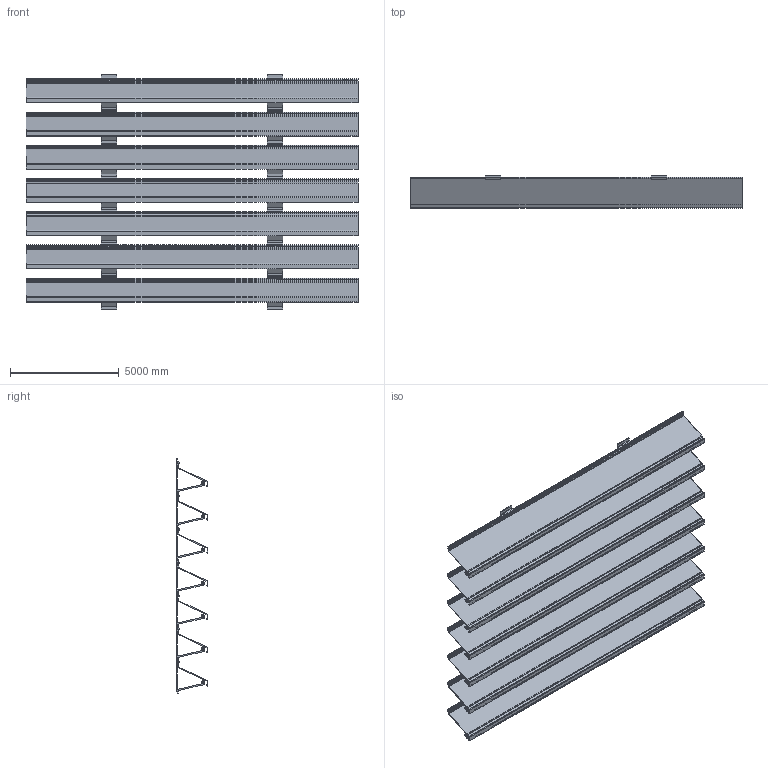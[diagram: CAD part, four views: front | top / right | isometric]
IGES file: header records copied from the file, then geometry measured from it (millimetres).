
Global section: file name: 3D_L_060M; native system: AutoCAD 2023 - English; preprocessor: Autodesk Translation Framework DWG producer (atf_dwg_producer); organization: unknown; date: 20260203.132656; units: inch
Bounding box: 15240 x 1460.5 x 10769.6 mm (x, y, z)
Volume: 10317784059.6 mm3; surface area: 573792379.7 mm2
Topology: 9 solids, 9 shells, 979 faces, 2883 edges, 1922 vertices
Faces by surface type: bspline 979
